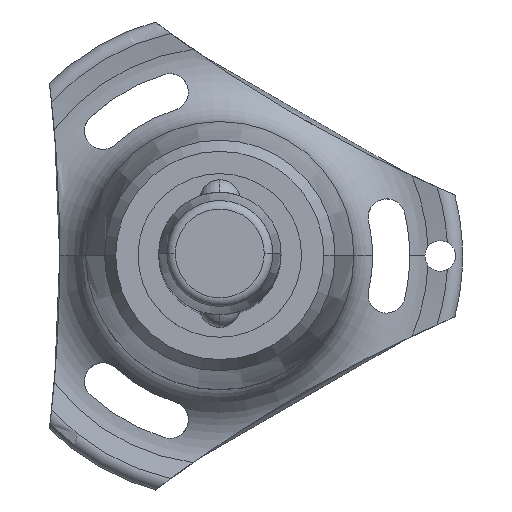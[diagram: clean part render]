
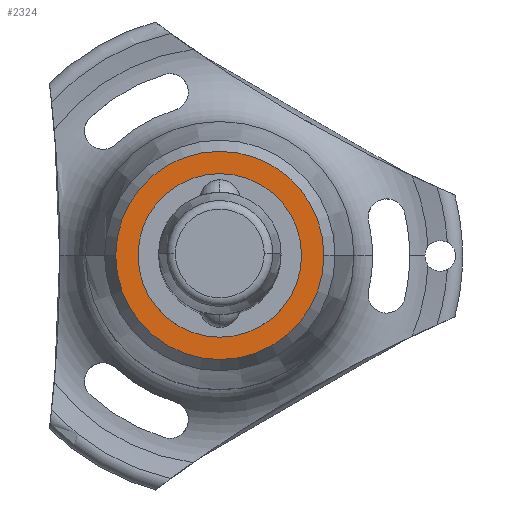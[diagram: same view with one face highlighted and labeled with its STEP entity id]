
A CAD part, top view. The second image highlights one B-rep face of the part: STEP entity #2324.
In plain terms, the highlighted planar face has unit normal (0, 0, 1).
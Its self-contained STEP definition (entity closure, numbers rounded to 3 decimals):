
#37 = PLANE ( 'NONE',  #675 ) ;
#56 = CARTESIAN_POINT ( 'NONE',  ( -8.017, 0., -100.85 ) ) ;
#65 = CIRCLE ( 'NONE', #159, 10.206 ) ;
#112 = DIRECTION ( 'NONE',  ( 0., 0., -1. ) ) ;
#159 = AXIS2_PLACEMENT_3D ( 'NONE', #1228, #1014, #359 ) ;
#289 = DIRECTION ( 'NONE',  ( 1., 0., 0. ) ) ;
#359 = DIRECTION ( 'NONE',  ( -1., 0., 0. ) ) ;
#460 = VERTEX_POINT ( 'NONE', #56 ) ;
#525 = DIRECTION ( 'NONE',  ( 0., 0., 1. ) ) ;
#554 = ORIENTED_EDGE ( 'NONE', *, *, #915, .T. ) ;
#675 = AXIS2_PLACEMENT_3D ( 'NONE', #1357, #525, #289 ) ;
#855 = ORIENTED_EDGE ( 'NONE', *, *, #1637, .F. ) ;
#915 = EDGE_CURVE ( 'NONE', #1497, #460, #2740, .T. ) ;
#1014 = DIRECTION ( 'NONE',  ( 0., 0., -1. ) ) ;
#1106 = EDGE_CURVE ( 'NONE', #460, #1497, #1129, .T. ) ;
#1129 = CIRCLE ( 'NONE', #1634, 8.017 ) ;
#1211 = EDGE_LOOP ( 'NONE', ( #1870, #554 ) ) ;
#1228 = CARTESIAN_POINT ( 'NONE',  ( 0., 0., -100.85 ) ) ;
#1357 = CARTESIAN_POINT ( 'NONE',  ( 0., 8.017, -100.85 ) ) ;
#1450 = AXIS2_PLACEMENT_3D ( 'NONE', #1654, #1476, #2361 ) ;
#1476 = DIRECTION ( 'NONE',  ( 0., 0., -1. ) ) ;
#1497 = VERTEX_POINT ( 'NONE', #1704 ) ;
#1504 = ORIENTED_EDGE ( 'NONE', *, *, #1667, .F. ) ;
#1634 = AXIS2_PLACEMENT_3D ( 'NONE', #1877, #112, #2105 ) ;
#1637 = EDGE_CURVE ( 'NONE', #1836, #2822, #2696, .T. ) ;
#1654 = CARTESIAN_POINT ( 'NONE',  ( 0., 0., -100.85 ) ) ;
#1667 = EDGE_CURVE ( 'NONE', #2822, #1836, #65, .T. ) ;
#1704 = CARTESIAN_POINT ( 'NONE',  ( 8.017, 0., -100.85 ) ) ;
#1720 = AXIS2_PLACEMENT_3D ( 'NONE', #2365, #2133, #2159 ) ;
#1836 = VERTEX_POINT ( 'NONE', #1907 ) ;
#1870 = ORIENTED_EDGE ( 'NONE', *, *, #1106, .T. ) ;
#1877 = CARTESIAN_POINT ( 'NONE',  ( 0., 0., -100.85 ) ) ;
#1907 = CARTESIAN_POINT ( 'NONE',  ( -10.206, 0., -100.85 ) ) ;
#2040 = FACE_BOUND ( 'NONE', #1211, .T. ) ;
#2105 = DIRECTION ( 'NONE',  ( -1., 0., 0. ) ) ;
#2133 = DIRECTION ( 'NONE',  ( 0., 0., -1. ) ) ;
#2159 = DIRECTION ( 'NONE',  ( -1., 0., 0. ) ) ;
#2223 = FACE_OUTER_BOUND ( 'NONE', #2597, .T. ) ;
#2324 = ADVANCED_FACE ( 'NONE', ( #2040, #2223 ), #37, .T. ) ;
#2361 = DIRECTION ( 'NONE',  ( -1., 0., 0. ) ) ;
#2365 = CARTESIAN_POINT ( 'NONE',  ( 0., 0., -100.85 ) ) ;
#2597 = EDGE_LOOP ( 'NONE', ( #855, #1504 ) ) ;
#2696 = CIRCLE ( 'NONE', #1450, 10.206 ) ;
#2740 = CIRCLE ( 'NONE', #1720, 8.017 ) ;
#2784 = CARTESIAN_POINT ( 'NONE',  ( 10.206, 0., -100.85 ) ) ;
#2822 = VERTEX_POINT ( 'NONE', #2784 ) ;
